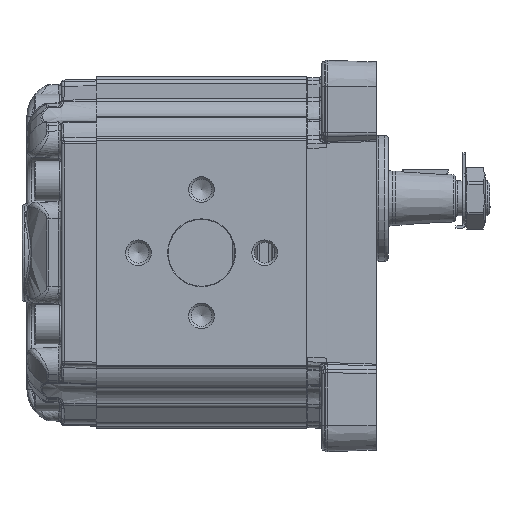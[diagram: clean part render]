
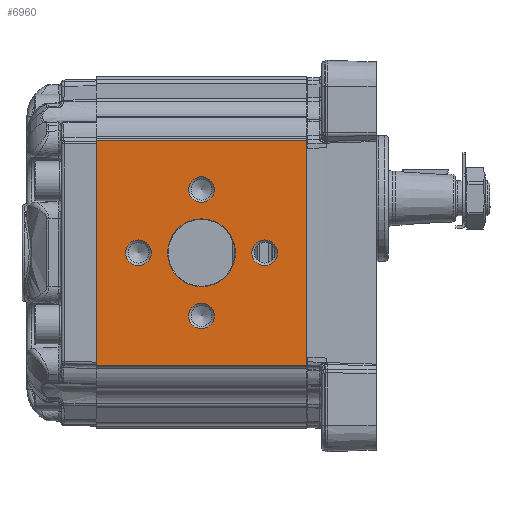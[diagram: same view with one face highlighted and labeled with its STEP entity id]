
A CAD part, left-side view. The second image highlights one B-rep face of the part: STEP entity #6960.
In plain terms, the highlighted planar face has unit normal (-1, 0, 0).
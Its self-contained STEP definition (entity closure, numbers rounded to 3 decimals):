
#6960 = ADVANCED_FACE( '', ( #15043, #15044, #15045, #15046, #15047, #15048 ), #15049, .T. );
#15043 = FACE_BOUND( '', #44071, .T. );
#15044 = FACE_BOUND( '', #44072, .T. );
#15045 = FACE_BOUND( '', #44073, .T. );
#15046 = FACE_BOUND( '', #44074, .T. );
#15047 = FACE_BOUND( '', #44075, .T. );
#15048 = FACE_OUTER_BOUND( '', #44076, .T. );
#15049 = PLANE( '', #44077 );
#44071 = EDGE_LOOP( '', ( #71518 ) );
#44072 = EDGE_LOOP( '', ( #71519 ) );
#44073 = EDGE_LOOP( '', ( #71520 ) );
#44074 = EDGE_LOOP( '', ( #71521 ) );
#44075 = EDGE_LOOP( '', ( #71522 ) );
#44076 = EDGE_LOOP( '', ( #71523, #71524, #71525, #71526 ) );
#44077 = AXIS2_PLACEMENT_3D( '', #71527, #71528, #71529 );
#71518 = ORIENTED_EDGE( '', *, *, #87394, .T. );
#71519 = ORIENTED_EDGE( '', *, *, #82186, .T. );
#71520 = ORIENTED_EDGE( '', *, *, #85179, .T. );
#71521 = ORIENTED_EDGE( '', *, *, #86189, .T. );
#71522 = ORIENTED_EDGE( '', *, *, #80294, .T. );
#71523 = ORIENTED_EDGE( '', *, *, #87395, .F. );
#71524 = ORIENTED_EDGE( '', *, *, #86585, .T. );
#71525 = ORIENTED_EDGE( '', *, *, #81081, .F. );
#71526 = ORIENTED_EDGE( '', *, *, #83242, .T. );
#71527 = CARTESIAN_POINT( '', ( -57.5, -142.954, -84.819 ) );
#71528 = DIRECTION( '', ( -1., 0., 0. ) );
#71529 = DIRECTION( '', ( 0., 0., -1. ) );
#80294 = EDGE_CURVE( '', #91590, #91590, #91591, .F. );
#81081 = EDGE_CURVE( '', #92923, #92925, #92926, .T. );
#82186 = EDGE_CURVE( '', #94729, #94729, #94730, .F. );
#83242 = EDGE_CURVE( '', #92923, #96435, #96437, .F. );
#85179 = EDGE_CURVE( '', #99245, #99245, #99246, .F. );
#86189 = EDGE_CURVE( '', #100569, #100569, #100570, .F. );
#86585 = EDGE_CURVE( '', #101068, #92925, #101069, .F. );
#87394 = EDGE_CURVE( '', #102052, #102052, #102053, .F. );
#87395 = EDGE_CURVE( '', #101068, #96435, #102054, .T. );
#91590 = VERTEX_POINT( '', #110279 );
#91591 = CIRCLE( '', #110280, 13.7 );
#92923 = VERTEX_POINT( '', #113782 );
#92925 = VERTEX_POINT( '', #113784 );
#92926 = LINE( '', #113785, #113786 );
#94729 = VERTEX_POINT( '', #118669 );
#94730 = CIRCLE( '', #118670, 5.188 );
#96435 = VERTEX_POINT( '', #123019 );
#96437 = LINE( '', #123021, #123022 );
#99245 = VERTEX_POINT( '', #130984 );
#99246 = CIRCLE( '', #130985, 5.188 );
#100569 = VERTEX_POINT( '', #135091 );
#100570 = CIRCLE( '', #135092, 5.188 );
#101068 = VERTEX_POINT( '', #136689 );
#101069 = LINE( '', #136690, #136691 );
#102052 = VERTEX_POINT( '', #139621 );
#102053 = CIRCLE( '', #139622, 5.188 );
#102054 = LINE( '', #139623, #139624 );
#110279 = CARTESIAN_POINT( '', ( -57.5, 42.5, -13.7 ) );
#110280 = AXIS2_PLACEMENT_3D( '', #144566, #144567, #144568 );
#113782 = CARTESIAN_POINT( '', ( -57.5, 0., 45.5 ) );
#113784 = CARTESIAN_POINT( '', ( -57.5, 0., -45.5 ) );
#113785 = CARTESIAN_POINT( '', ( -57.5, 0., -44.978 ) );
#113786 = VECTOR( '', #144957, 1000. );
#118669 = CARTESIAN_POINT( '', ( -57.5, 68., -5.188 ) );
#118670 = AXIS2_PLACEMENT_3D( '', #145544, #145545, #145546 );
#123019 = CARTESIAN_POINT( '', ( -57.5, 85., 45.5 ) );
#123021 = CARTESIAN_POINT( '', ( -57.5, -142.954, 45.5 ) );
#123022 = VECTOR( '', #146034, 1000. );
#130984 = CARTESIAN_POINT( '', ( -57.5, 42.5, -30.688 ) );
#130985 = AXIS2_PLACEMENT_3D( '', #146986, #146987, #146988 );
#135091 = CARTESIAN_POINT( '', ( -57.5, 17., -5.188 ) );
#135092 = AXIS2_PLACEMENT_3D( '', #147403, #147404, #147405 );
#136689 = CARTESIAN_POINT( '', ( -57.5, 85., -45.5 ) );
#136690 = CARTESIAN_POINT( '', ( -57.5, -142.954, -45.5 ) );
#136691 = VECTOR( '', #147535, 1000. );
#139621 = CARTESIAN_POINT( '', ( -57.5, 42.5, 20.312 ) );
#139622 = AXIS2_PLACEMENT_3D( '', #147844, #147845, #147846 );
#139623 = CARTESIAN_POINT( '', ( -57.5, 85., -84.819 ) );
#139624 = VECTOR( '', #147847, 1000. );
#144566 = CARTESIAN_POINT( '', ( -57.5, 42.5, 0. ) );
#144567 = DIRECTION( '', ( -1., 0., 0. ) );
#144568 = DIRECTION( '', ( 0., 0., -1. ) );
#144957 = DIRECTION( '', ( 0., 0., -1. ) );
#145544 = CARTESIAN_POINT( '', ( -57.5, 68., 0. ) );
#145545 = DIRECTION( '', ( -1., 0., 0. ) );
#145546 = DIRECTION( '', ( 0., 0., -1. ) );
#146034 = DIRECTION( '', ( 0., -1., 0. ) );
#146986 = CARTESIAN_POINT( '', ( -57.5, 42.5, -25.5 ) );
#146987 = DIRECTION( '', ( -1., 0., 0. ) );
#146988 = DIRECTION( '', ( 0., 0., -1. ) );
#147403 = CARTESIAN_POINT( '', ( -57.5, 17., 0. ) );
#147404 = DIRECTION( '', ( -1., 0., 0. ) );
#147405 = DIRECTION( '', ( 0., 0., -1. ) );
#147535 = DIRECTION( '', ( 0., 1., 0. ) );
#147844 = CARTESIAN_POINT( '', ( -57.5, 42.5, 25.5 ) );
#147845 = DIRECTION( '', ( -1., 0., 0. ) );
#147846 = DIRECTION( '', ( 0., 0., -1. ) );
#147847 = DIRECTION( '', ( 0., 0., 1. ) );
